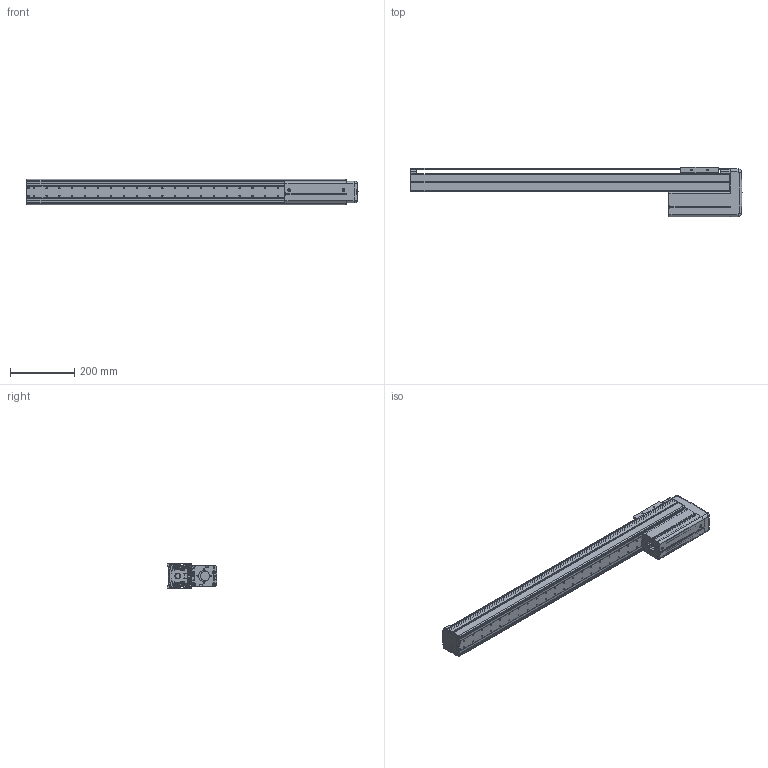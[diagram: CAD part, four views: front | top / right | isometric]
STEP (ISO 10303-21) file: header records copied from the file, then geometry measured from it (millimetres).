
FILE_DESCRIPTION((''),'2;1');
FILE_NAME('BE10E-UU-M_B-80_IGS_PRT','2017-06-17T',(' '),(''),'PRO/ENGINEER BY PARAMETRIC TECHNOLOGY CORPORATION, 2015030','PRO/ENGINEER BY PARAMETRIC TECHNOLOGY CORPORATION, 2015030','');
FILE_SCHEMA(('CONFIG_CONTROL_DESIGN'));
Length unit declared in the file: millimetre
Products named in the file (1): BE10E-UU-M_B-80_IGS_PRT
Bounding box: 1032 x 153 x 78 mm (x, y, z)
Volume: 1453141.1 mm3; surface area: 1030165.4 mm2
Topology: 3 solids, 127 shells, 1853 faces, 5008 edges, 3264 vertices
Faces by surface type: cylinder 911, plane 714, cone 81, torus 71, sphere 44, bspline 32
Entity records: 60676 total; most frequent: CARTESIAN_POINT 12799, DIRECTION 10396, ORIENTED_EDGE 9474, EDGE_CURVE 4972, AXIS2_PLACEMENT_3D 3902, VERTEX_POINT 3264, VECTOR 2592, LINE 2592
